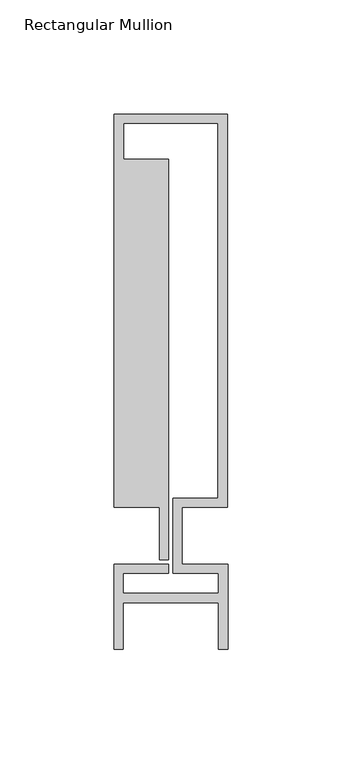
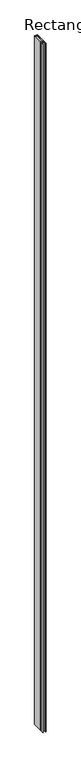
"""IFC4 building model written with IfcOpenShell, lengths in millimetres: member geometry, Rectangular Mullion : Reynaers_CW-50_Mullion-Transom_Horizontal_172.4mm_Facecap-03."""

from ifc_helpers import new_model, si_unit, frame, origin, place, context, project, spatial, polyline, outline, extrude, source, transform, mapped, element, save


def rectangular_mullion_9ad05bb0(model_context):
    return source(origin(), model_context, "Body", "SweptSolid", [
        extrude(outline(polyline([(-24.8004059, 184.9), (24.8004059, 184.9), (24.8004059, 12.5), (4.9004059, 12.5), (4.9004059, -12.5), (24.994845, -12.5), (24.994845, -49.8), (20.994845, -49.8), (20.994845, -29.3268728), (-20.994845, -29.3268728), (-20.994845, -49.8), (-24.994845, -49.8), (-24.994845, -12.5), (-1.0995941, -12.5), (-1.0995941, -16.5), (-20.994845, -16.5), (-20.994845, -25.3268728), (20.994845, -25.3268728), (20.994845, -16.5), (0.9004059, -16.5), (0.9004059, 16.5), (20.8004059, 16.5), (20.8004059, 180.9), (-20.8004059, 180.9), (-20.8004059, 165.0), (-0.9004059, 165.0), (-0.9004059, -10.5), (-4.9004059, -10.5), (-4.9004059, 12.5), (-24.8004059, 12.5), (-24.8004059, 184.9)])), frame((0.0, 0.0, -12000.0), z_axis=(0.0, 0.0, 1.0), x_axis=(1.0, 0.0, 0.0)), (0.0, 0.0, 1.0), 12000.0),
    ])


if __name__ == "__main__":
    model = new_model("IFC4")
    model_context = context("Model", 3, world=origin())
    ifc_project = project(units=[si_unit("LENGTHUNIT", "METRE", prefix="MILLI")], contexts=[model_context])
    site = spatial("IfcSite", under=ifc_project)
    building = spatial("IfcBuilding", under=site)
    placement = place(None, origin())
    rectangular_mullion_shape = rectangular_mullion_9ad05bb0(model_context)
    element("IfcMember", 1, ObjectType="Rectangular Mullion : Reynaers_CW-50_Mullion-Transom_Horizontal_172.4mm_Facecap-03", at=placement, inside=building, context=model_context, shape_type="MappedRepresentation", body=[
        mapped(rectangular_mullion_shape, transform((0.0, 0.0, 0.0), x_axis=(1.0, 0.0, 0.0), y_axis=(0.0, 1.0, 0.0), z_axis=(0.0, 0.0, 1.0))),
    ])
    save(model, "model.ifc")
